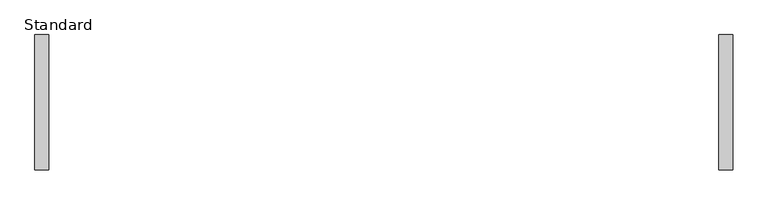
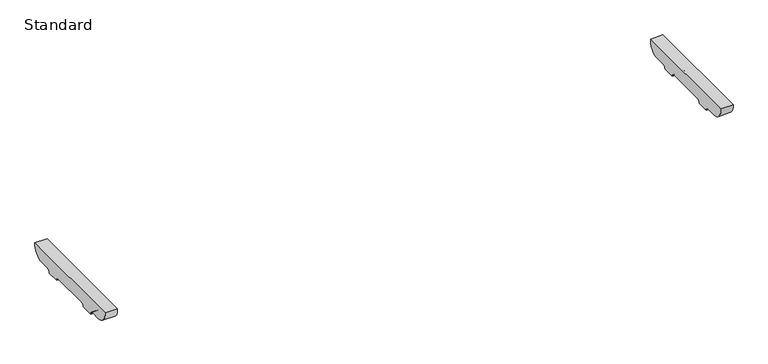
"""IFC4 building model written with IfcOpenShell, lengths in millimetres: furniture geometry, BDG_BossDesign_Tbls_AgentTables4Legs_Nested : Standard."""

from ifc_helpers import new_model, si_unit, point, frame, frame_2d, origin, place, context, project, spatial, polyline, circle_curve, trimmed, segment, composite_curve, outline, extrude, source, transform, mapped, element, save


def standard_e49cf23a(model_context):
    return source(origin(), model_context, "Body", "SweptSolid", [
        extrude(outline(composite_curve([segment(polyline([(180.5450184, 672.0), (142.7000122, 672.0)]), True, "CONTINUOUS"), segment(trimmed(circle_curve(frame_2d((142.7000122, 660.0)), 12.0), [point((142.7000122, 672.0))], [point((130.7000122, 660.0))], True, "CARTESIAN"), True, "CONTINUOUS"), segment(polyline([(130.7000122, 660.0), (85.7000122, 660.0)]), True, "CONTINUOUS"), segment(trimmed(circle_curve(frame_2d((73.7000122, 660.0)), 12.0), [point((85.7000122, 660.0))], [point((73.7000122, 672.0))], True, "CARTESIAN"), True, "CONTINUOUS"), segment(polyline([(73.7000122, 672.0), (-73.7000122, 672.0)]), True, "CONTINUOUS"), segment(trimmed(circle_curve(frame_2d((-73.7000122, 660.0)), 12.0), [point((-73.7000122, 672.0))], [point((-85.7000122, 660.0))], True, "CARTESIAN"), True, "CONTINUOUS"), segment(polyline([(-85.7000122, 660.0), (-130.7000122, 660.0)]), True, "CONTINUOUS"), segment(trimmed(circle_curve(frame_2d((-142.7000122, 660.0)), 12.0), [point((-130.7000122, 660.0))], [point((-142.7000122, 672.0))], True, "CARTESIAN"), True, "CONTINUOUS"), segment(polyline([(-142.7000122, 672.0), (-180.5450184, 672.0)]), True, "CONTINUOUS"), segment(trimmed(circle_curve(frame_2d((-178.2220439, 716.5514119)), 44.6119324), [point((-180.5450184, 672.0))], [point((-222.5, 722.0))], False, "CARTESIAN"), True, "CONTINUOUS"), segment(polyline([(-222.5, 722.0), (222.5, 722.0)]), True, "CONTINUOUS"), segment(trimmed(circle_curve(frame_2d((178.2220439, 716.5514119)), 44.6119324), [point((222.5, 722.0))], [point((180.5450184, 672.0))], False, "CARTESIAN"), True, "CONTINUOUS")], self_intersect=False)), frame((1105.0, 0.0, 0.0), z_axis=(1.0, 0.0, 0.0), x_axis=(0.0, 1.0, 0.0)), (0.0, 0.0, 1.0), 45.0),
        extrude(outline(composite_curve([segment(polyline([(180.5450184, 672.0), (142.7000122, 672.0)]), True, "CONTINUOUS"), segment(trimmed(circle_curve(frame_2d((142.7000122, 660.0)), 12.0), [point((142.7000122, 672.0))], [point((130.7000122, 660.0))], True, "CARTESIAN"), True, "CONTINUOUS"), segment(polyline([(130.7000122, 660.0), (85.7000122, 660.0)]), True, "CONTINUOUS"), segment(trimmed(circle_curve(frame_2d((73.7000122, 660.0)), 12.0), [point((85.7000122, 660.0))], [point((73.7000122, 672.0))], True, "CARTESIAN"), True, "CONTINUOUS"), segment(polyline([(73.7000122, 672.0), (-73.7000122, 672.0)]), True, "CONTINUOUS"), segment(trimmed(circle_curve(frame_2d((-73.7000122, 660.0)), 12.0), [point((-73.7000122, 672.0))], [point((-85.7000122, 660.0))], True, "CARTESIAN"), True, "CONTINUOUS"), segment(polyline([(-85.7000122, 660.0), (-130.7000122, 660.0)]), True, "CONTINUOUS"), segment(trimmed(circle_curve(frame_2d((-142.7000122, 660.0)), 12.0), [point((-130.7000122, 660.0))], [point((-142.7000122, 672.0))], True, "CARTESIAN"), True, "CONTINUOUS"), segment(polyline([(-142.7000122, 672.0), (-180.5450184, 672.0)]), True, "CONTINUOUS"), segment(trimmed(circle_curve(frame_2d((-178.2220439, 716.5514119)), 44.6119324), [point((-180.5450184, 672.0))], [point((-222.5, 722.0))], False, "CARTESIAN"), True, "CONTINUOUS"), segment(polyline([(-222.5, 722.0), (222.5, 722.0)]), True, "CONTINUOUS"), segment(trimmed(circle_curve(frame_2d((178.2220439, 716.5514119)), 44.6119324), [point((222.5, 722.0))], [point((180.5450184, 672.0))], False, "CARTESIAN"), True, "CONTINUOUS")], self_intersect=False)), frame((-1150.0, 0.0, 0.0), z_axis=(1.0, 0.0, 0.0), x_axis=(0.0, 1.0, 0.0)), (0.0, 0.0, 1.0), 45.0),
    ])


if __name__ == "__main__":
    model = new_model("IFC4")
    model_context = context("Model", 3, world=origin())
    ifc_project = project(units=[si_unit("LENGTHUNIT", "METRE", prefix="MILLI")], contexts=[model_context])
    site = spatial("IfcSite", under=ifc_project)
    building = spatial("IfcBuilding", under=site)
    placement = place(None, origin())
    standard_shape = standard_e49cf23a(model_context)
    element("IfcFurniture", 1, ObjectType="BDG_BossDesign_Tbls_AgentTables4Legs_Nested : Standard", at=placement, inside=building, context=model_context, shape_type="MappedRepresentation", body=[
        mapped(standard_shape, transform((0.0, 0.0, 0.0), x_axis=(1.0, 0.0, 0.0), y_axis=(0.0, 1.0, 0.0), z_axis=(0.0, 0.0, 1.0))),
    ])
    save(model, "model.ifc")
